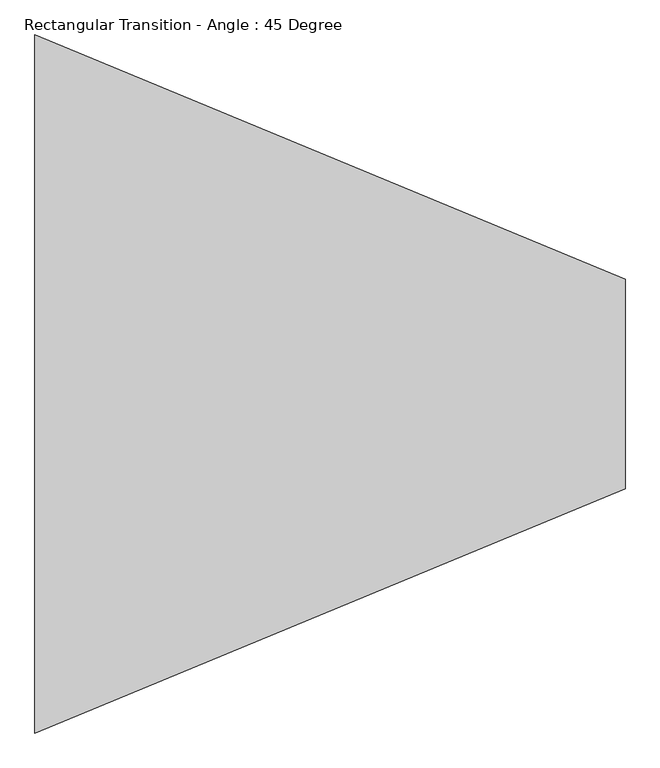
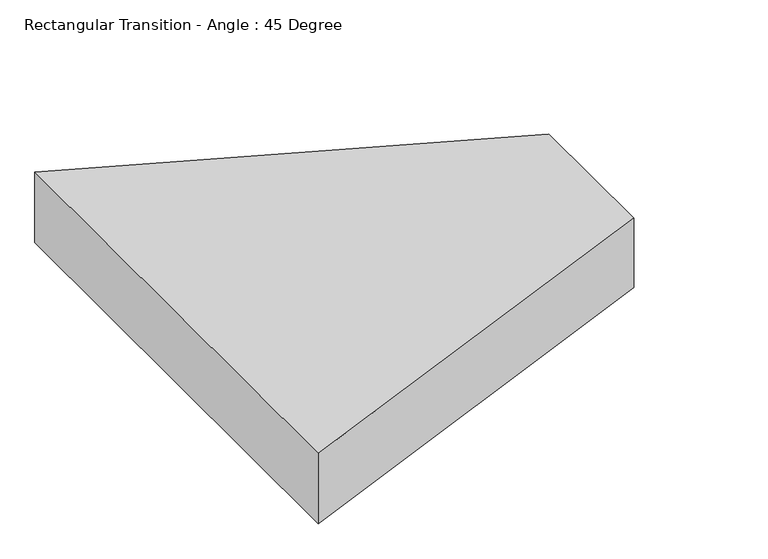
"""IFC4 building model written with IfcOpenShell, lengths in millimetres: duct fitting geometry, Rectangular Transition - Angle : 45 Degree."""

from ifc_helpers import new_model, si_unit, origin, place, context, project, spatial, faceted_brep, source, transform, mapped, element, save


def rectangular_transition_angle_45_degree_85914557(model_context):
    return source(origin(), model_context, "Body", "Brep", [
        faceted_brep([(1145.936645, -203.2, 101.6), (1145.936645, -203.2, -101.6), (1145.936645, 203.2, -101.6), (1145.936645, 203.2, 101.6), (0.0, -677.8625, 103.1875), (0.0, 677.8625, 103.1875), (0.0, 677.8625, -103.1875), (0.0, -677.8625, -103.1875)], [[[0, 1, 2, 3]], [[4, 5, 6, 7]], [[4, 7, 1, 0]], [[7, 6, 2, 1]], [[6, 5, 3, 2]], [[5, 4, 0, 3]]]),
    ])


if __name__ == "__main__":
    model = new_model("IFC4")
    model_context = context("Model", 3, world=origin())
    ifc_project = project(units=[si_unit("LENGTHUNIT", "METRE", prefix="MILLI")], contexts=[model_context])
    site = spatial("IfcSite", under=ifc_project)
    building = spatial("IfcBuilding", under=site)
    placement = place(None, origin())
    rectangular_transition_angle_45_degree_shape = rectangular_transition_angle_45_degree_85914557(model_context)
    element("IfcDuctFitting", 1, ObjectType="Rectangular Transition - Angle : 45 Degree", at=placement, inside=building, context=model_context, shape_type="MappedRepresentation", body=[
        mapped(rectangular_transition_angle_45_degree_shape, transform((0.0, 0.0, 0.0), x_axis=(1.0, 0.0, 0.0), y_axis=(0.0, 1.0, 0.0), z_axis=(0.0, 0.0, 1.0))),
    ])
    save(model, "model.ifc")
